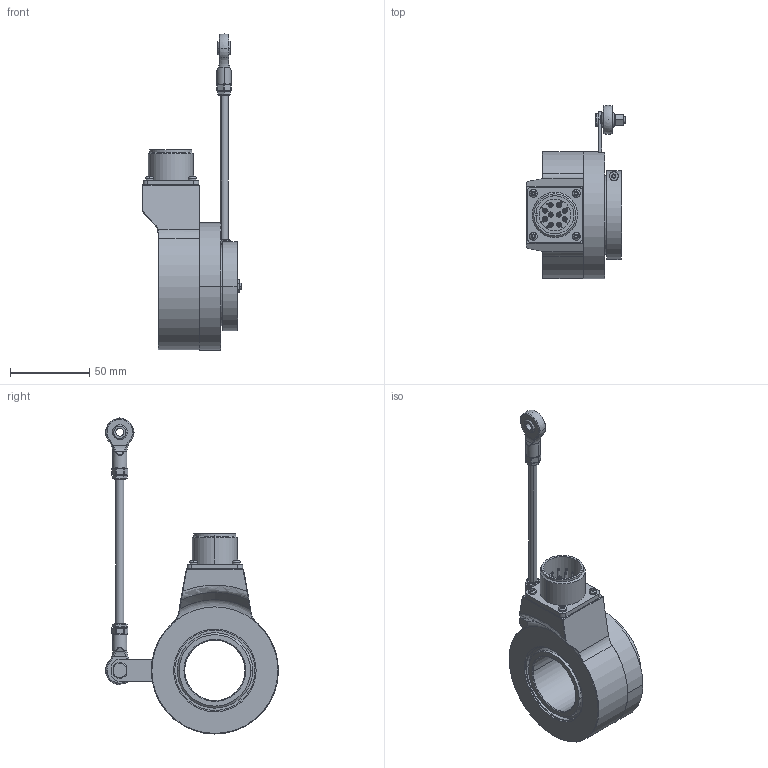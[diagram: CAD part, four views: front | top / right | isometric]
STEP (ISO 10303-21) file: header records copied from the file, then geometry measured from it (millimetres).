
FILE_DESCRIPTION (( 'STEP AP203' ), '1' );
FILE_NAME ('K80I.OXX.XXXXX.XH17838.6XRCE.step', '2025-12-09T08:46:38', ( '' ), ( '' ), 'SwSTEP 2.0', 'SolidWorks 2021', '' );
FILE_SCHEMA (( 'CONFIG_CONTROL_DESIGN' ));
Length unit declared in the file: millimetre
Products named in the file (1): K80I.OXX.XXXXX.XH17838.6XRCE
Bounding box: 62.6 x 108.97 x 199.07 mm (x, y, z)
Volume: 219940.1 mm3; surface area: 72104.5 mm2
Topology: 14 solids, 14 shells, 847 faces, 2109 edges, 1321 vertices
Faces by surface type: plane 318, cylinder 263, bspline 107, cone 91, torus 54, sphere 14
Entity records: 30578 total; most frequent: CARTESIAN_POINT 10835, ORIENTED_EDGE 4142, DIRECTION 4049, EDGE_CURVE 2071, AXIS2_PLACEMENT_3D 1557, VERTEX_POINT 1317, EDGE_LOOP 938, VECTOR 935
